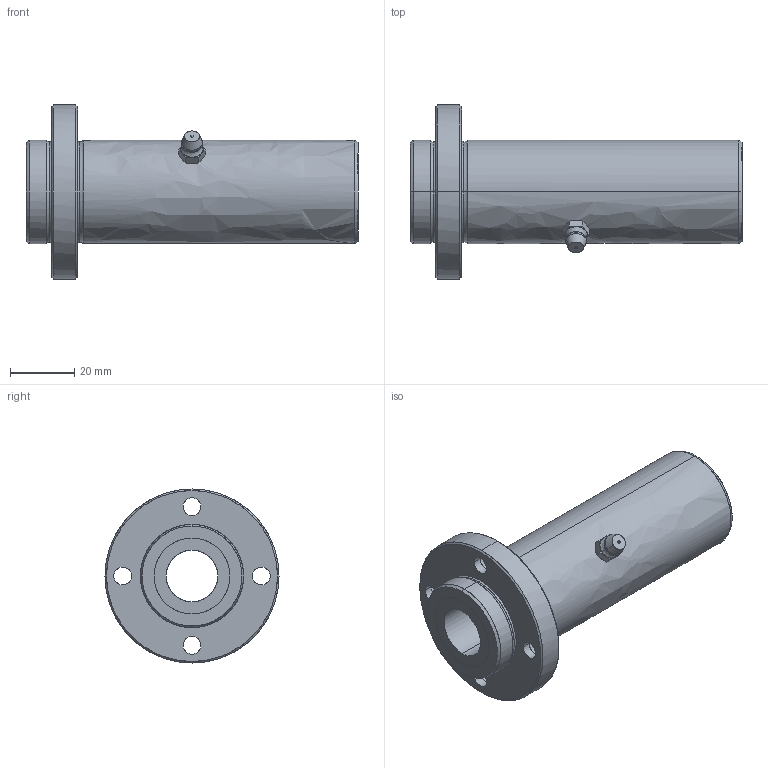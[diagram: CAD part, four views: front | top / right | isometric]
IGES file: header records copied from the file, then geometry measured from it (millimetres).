
Global section: file name: No Iges File Name specified; native system: AutoDesk Inventor R10; preprocessor: AutoDesk Inventor Iges Exporter R10; author: No Author specified; organization: No Organization specified; date: 20101211.162354; units: millimetre
Bounding box: 103 x 54 x 54 mm (x, y, z)
Surface area: 20939.8 mm2 (no closed solid volume)
Topology: 0 solids, 0 shells, 92 faces, 609 edges, 607 vertices
Faces by surface type: bspline 92
